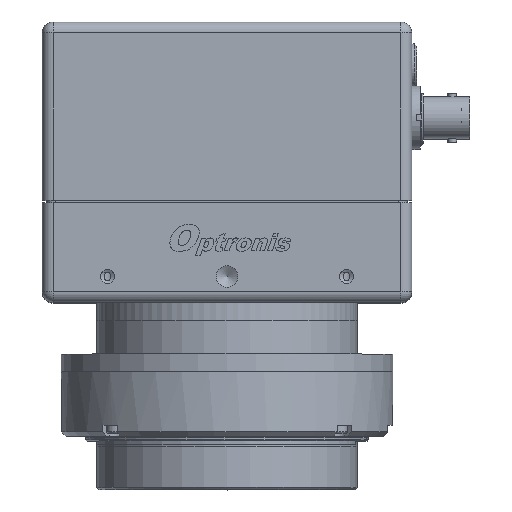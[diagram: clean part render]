
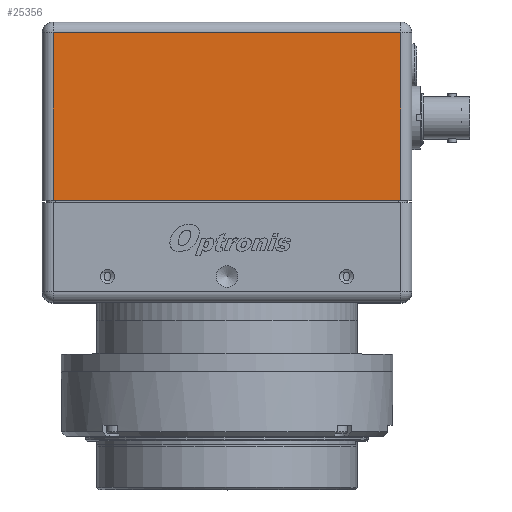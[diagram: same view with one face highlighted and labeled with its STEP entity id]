
A CAD part, top view. The second image highlights one B-rep face of the part: STEP entity #25356.
In plain terms, the highlighted planar face has unit normal (0, 0, 1).
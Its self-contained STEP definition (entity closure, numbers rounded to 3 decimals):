
#3095=FACE_OUTER_BOUND('',#4792,.T.);
#4792=EDGE_LOOP('',(#18224,#18225,#18226,#18227));
#7047=LINE('',#40135,#9008);
#7067=LINE('',#40210,#9028);
#7069=LINE('',#40219,#9030);
#7070=LINE('',#40221,#9031);
#9008=VECTOR('',#30580,80.);
#9028=VECTOR('',#30666,38.5);
#9030=VECTOR('',#30678,80.);
#9031=VECTOR('',#30681,38.5);
#11081=VERTEX_POINT('',#40132);
#11082=VERTEX_POINT('',#40134);
#11104=VERTEX_POINT('',#40203);
#11106=VERTEX_POINT('',#40214);
#13755=EDGE_CURVE('',#11081,#11082,#7047,.T.);
#13793=EDGE_CURVE('',#11082,#11104,#7067,.T.);
#13798=EDGE_CURVE('',#11104,#11106,#7069,.T.);
#13799=EDGE_CURVE('',#11106,#11081,#7070,.T.);
#18224=ORIENTED_EDGE('',*,*,#13793,.F.);
#18225=ORIENTED_EDGE('',*,*,#13755,.F.);
#18226=ORIENTED_EDGE('',*,*,#13799,.F.);
#18227=ORIENTED_EDGE('',*,*,#13798,.F.);
#22581=PLANE('',#27135);
#25356=ADVANCED_FACE('',(#3095),#22581,.T.);
#27135=AXIS2_PLACEMENT_3D('',#40230,#30695,#30696);
#30580=DIRECTION('',(-1.,0.,0.));
#30666=DIRECTION('',(0.,1.,0.));
#30678=DIRECTION('',(1.,0.,0.));
#30681=DIRECTION('',(0.,-1.,0.));
#30695=DIRECTION('center_axis',(0.,0.,
1.));
#30696=DIRECTION('ref_axis',(-1.,0.,0.));
#40132=CARTESIAN_POINT('',(-0.165,134.4,99.53));
#40134=CARTESIAN_POINT('',(-80.165,134.4,99.53));
#40135=CARTESIAN_POINT('',(-82.665,134.4,99.53));
#40203=CARTESIAN_POINT('',(-80.165,172.9,99.53));
#40210=CARTESIAN_POINT('',(-80.165,175.4,99.53));
#40214=CARTESIAN_POINT('',(-0.165,172.9,99.53));
#40219=CARTESIAN_POINT('',(-18.915,172.9,99.53));
#40221=CARTESIAN_POINT('',(-0.165,175.4,99.53));
#40230=CARTESIAN_POINT('Origin',(2.335,175.4,99.53));
